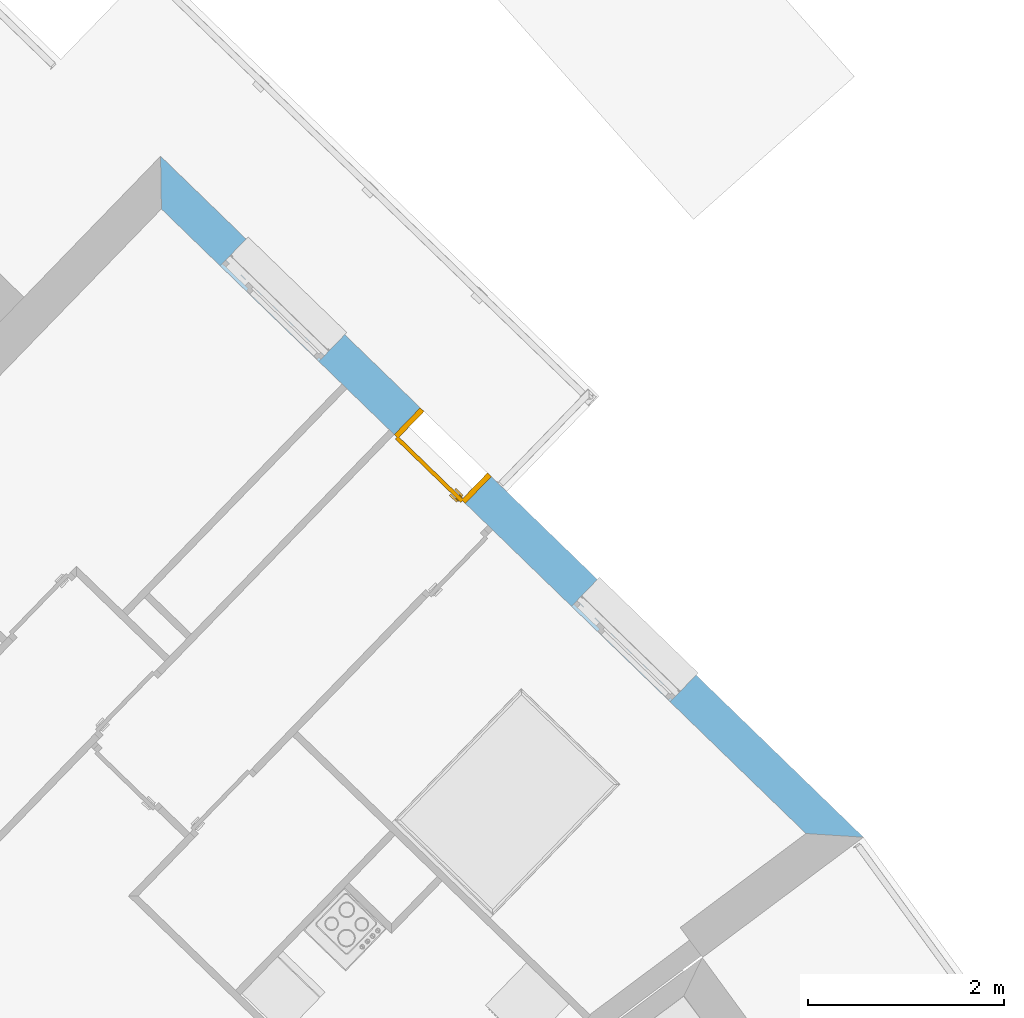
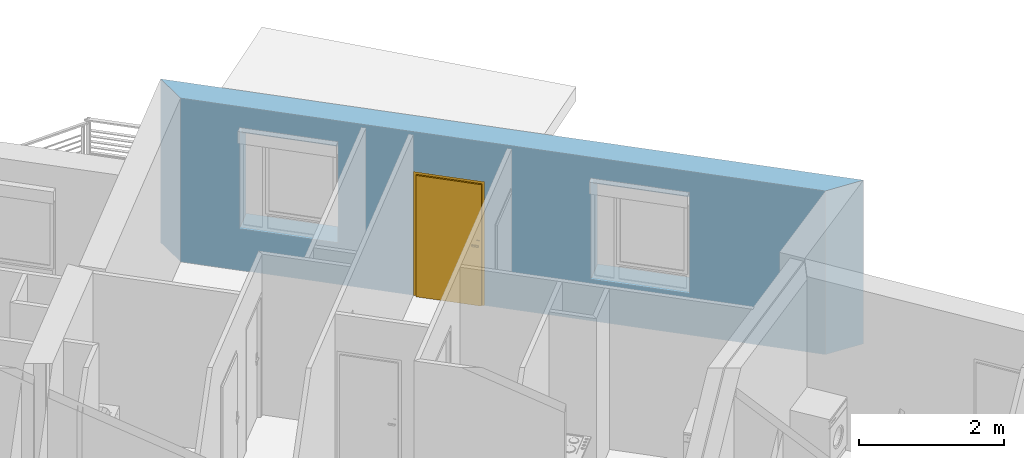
# One storey, part 21 of 121: 1 door, 3 openings, plus 1 element that does not belong to this part.
"""IFC2X3 building model written with IfcOpenShell, lengths in metres."""

from ifc_helpers import new_model, entity, si_unit, converted_unit, derived_unit, money_unit, direction, frame, origin_with_axes, origin_2d_with_axis, place, context, subcontext, project, spatial, polyline, rectangle, outline, extrude, faceted_brep, source, transform, mapped, material, layer, layer_set, layer_usage, type_object, element, fill, save


model = new_model("IFC2X3")

# Units and contexts
model_context = context("Model", 3, precision=1e-05, world=origin_with_axes(), true_north=direction((0.0, 1.0)))
body_context = subcontext(model_context, "Body", "Model", "MODEL_VIEW")
ifc_project = project(units=[si_unit("LENGTHUNIT", "METRE"), si_unit("AREAUNIT", "SQUARE_METRE"), si_unit("VOLUMEUNIT", "CUBIC_METRE"), converted_unit("PLANEANGLEUNIT", "DEGREE", entity("IfcPlaneAngleMeasure", 0.0174532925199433), si_unit("PLANEANGLEUNIT", "RADIAN"), dimensions=[0, 0, 0, 0, 0, 0, 0]), money_unit("CHF"), converted_unit("TIMEUNIT", "Year", entity("IfcTimeMeasure", 31557600.0), si_unit("TIMEUNIT", "SECOND"), dimensions=[0, 0, 1, 0, 0, 0, 0]), si_unit("MASSUNIT", "GRAM", prefix="KILO"), si_unit("THERMODYNAMICTEMPERATUREUNIT", "DEGREE_CELSIUS"), si_unit("LUMINOUSINTENSITYUNIT", "LUMEN"), si_unit("ENERGYUNIT", "JOULE", prefix="MEGA"), derived_unit("THERMALCONDUCTANCEUNIT", [(si_unit("POWERUNIT", "WATT"), 1), (si_unit("LENGTHUNIT", "METRE"), -1), (si_unit("THERMODYNAMICTEMPERATUREUNIT", "KELVIN"), -1)]), derived_unit("SPECIFICHEATCAPACITYUNIT", [(si_unit("ENERGYUNIT", "JOULE"), 1), (si_unit("MASSUNIT", "GRAM", prefix="KILO"), -1), (si_unit("THERMODYNAMICTEMPERATUREUNIT", "KELVIN"), -1)]), derived_unit("MASSDENSITYUNIT", [(si_unit("MASSUNIT", "GRAM", prefix="KILO"), 1), (si_unit("VOLUMEUNIT", "CUBIC_METRE"), -1)])], contexts=[model_context])

# Site, building, storey
site_placement = place(None, origin_with_axes())
site = spatial("IfcSite", under=ifc_project, at=site_placement, Name="Site", CompositionType="ELEMENT")
building_placement = place(site_placement, origin_with_axes())
building = spatial("IfcBuilding", under=site, at=building_placement, Name="Bâtiment", CompositionType="ELEMENT")
storey_placement = place(building_placement, frame((0.0, 0.0, 2.75), z_axis=(0.0, 0.0, 1.0), x_axis=(1.0, 0.0, 0.0)))
storey = spatial("IfcBuildingStorey", under=building, at=storey_placement, Name="Etage 1", CompositionType="ELEMENT", Elevation=2.75)

# Wall, openings, door
ifc_material_1 = material(Name="Parpaing 312445824")
ifc_layer_1 = layer(ifc_material_1, 0.22, ventilated="UNKNOWN")
ifc_material_2 = material(Name="Isolant styromousse 301821074")
ifc_layer_2 = layer(ifc_material_2, 0.16, ventilated="UNKNOWN")
ifc_layer_set = layer_set([ifc_layer_1, ifc_layer_2], Name="isol int 22+16 0836643197")
ifc_layer_usage = layer_usage(ifc_layer_set, "AXIS2", "NEGATIVE", 0.0)
wall_type = type_object("IfcWallType", Name="isol int 22+16 0836643197 380", PredefinedType="NOTDEFINED")
wall_placement = place(storey_placement, frame((9531.989867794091, -1061.560379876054, 57.7), z_axis=(0.0, 0.0, 1.0), x_axis=(0.7181763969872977, -0.6958610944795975, 0.0)))
wall = element("IfcWallStandardCase", 1, at=wall_placement, inside=storey, type_object=wall_type, material=ifc_layer_usage, Name="Mur-116", context=body_context, shape_type="SweptSolid", body=[
    extrude(outline(polyline([(0.3800000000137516, -0.3799999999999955), (9.524551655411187, -0.3800000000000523), (9.970619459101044, 0.0), (0.0, 0.0), (0.3800000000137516, -0.3799999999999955)])), origin_with_axes(), (0.0, 0.0, 1.0), 2.75),
])
opening_1_placement = place(wall_placement, frame((1.912836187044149, 0.0, 0.7000000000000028), z_axis=(0.0, 0.0, 1.0), x_axis=(1.0, 0.0, 0.0)))
element("IfcOpeningElement", 2, at=opening_1_placement, cuts=wall, Name="Fen-045", context=body_context, shape_type="Brep", body=[
    faceted_brep([(-0.7000000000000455, -0.2200000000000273, 1.5), (0.6999999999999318, -0.2200000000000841, 1.5), (0.6999999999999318, 4.983827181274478, 1.5), (-0.7000000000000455, 4.983827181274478, 1.5), (-0.7000000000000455, -0.2200000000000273, 1.700000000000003), (0.6999999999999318, -0.2200000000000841, 1.700000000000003), (0.6999999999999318, -0.3000000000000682, 1.5), (0.6999999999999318, -0.3000000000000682, 0.0), (0.6999999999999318, 4.983827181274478, 0.0), (-0.7000000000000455, 4.983827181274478, 0.0), (-0.7000000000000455, -0.3000000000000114, 1.5), (-0.7000000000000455, -0.3000000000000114, 0.0), (-0.7000000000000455, -0.4799999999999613, 1.5), (-0.7000000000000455, -0.4799999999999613, 1.700000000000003), (0.6999999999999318, -0.4800000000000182, 1.700000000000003), (0.6999999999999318, -0.4800000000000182, 1.5), (0.6999999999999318, -5.36382718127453, 1.5), (0.6999999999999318, -5.36382718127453, 0.0), (-0.7000000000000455, -5.363827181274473, 0.0), (-0.7000000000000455, -5.363827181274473, 1.5)], [[[0, 1, 2, 3]], [[1, 0, 4, 5]], [[1, 6, 7, 8, 2]], [[2, 8, 9, 3]], [[10, 0, 3, 9, 11]], [[0, 10, 12, 13, 4]], [[4, 13, 14, 5]], [[6, 1, 5, 14, 15]], [[6, 15, 16, 17, 7]], [[7, 11, 9, 8]], [[12, 10, 11, 18, 19]], [[12, 15, 14, 13]], [[15, 12, 19, 16]], [[19, 18, 17, 16]], [[11, 7, 17, 18]]]),
])
opening_2_placement = place(wall_placement, frame((4.187148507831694, 0.0, 0.0), z_axis=(0.0, 0.0, 1.0), x_axis=(1.0, 0.0, 0.0)))
opening_2 = element("IfcOpeningElement", 3, at=opening_2_placement, cuts=wall, Name="Por-297", context=body_context, shape_type="SweptSolid", body=[
    extrude(rectangle(XDim=1.01000001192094, YDim=2.079999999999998, at=origin_2d_with_axis()), frame((-5.960487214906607e-09, 0.3799999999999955, 1.039999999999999), z_axis=(0.0, -1.0, 0.0), x_axis=(-1.0, 0.0, 0.0)), (0.0, 0.0, 1.0), 0.76),
])
opening_3_placement = place(wall_placement, frame((6.896864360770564, 0.0, 0.7000000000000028), z_axis=(0.0, 0.0, 1.0), x_axis=(1.0, 0.0, 0.0)))
element("IfcOpeningElement", 4, at=opening_3_placement, cuts=wall, Name="Fen-045", context=body_context, shape_type="Brep", body=[
    faceted_brep([(-0.7000000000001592, -0.2200000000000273, 1.5), (0.6999999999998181, -0.2200000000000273, 1.5), (0.6999999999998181, 4.983827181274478, 1.5), (-0.7000000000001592, 4.983827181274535, 1.5), (-0.7000000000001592, -0.2200000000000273, 1.700000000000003), (0.6999999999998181, -0.2200000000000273, 1.700000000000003), (0.6999999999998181, -0.3000000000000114, 1.5), (0.6999999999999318, -0.3000000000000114, 0.0), (0.6999999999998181, 4.983827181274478, 0.0), (-0.7000000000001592, 4.983827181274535, 0.0), (-0.7000000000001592, -0.2999999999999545, 1.5), (-0.7000000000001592, -0.3000000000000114, 0.0), (-0.7000000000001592, -0.4799999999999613, 1.5), (-0.7000000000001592, -0.4799999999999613, 1.700000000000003), (0.6999999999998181, -0.4799999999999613, 1.700000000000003), (0.6999999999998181, -0.4799999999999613, 1.5), (0.6999999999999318, -5.36382718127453, 1.5), (0.6999999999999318, -5.36382718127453, 0.0), (-0.7000000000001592, -5.363827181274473, 0.0), (-0.7000000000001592, -5.363827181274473, 1.5)], [[[0, 1, 2, 3]], [[1, 0, 4, 5]], [[1, 6, 7, 8, 2]], [[2, 8, 9, 3]], [[10, 0, 3, 9, 11]], [[0, 10, 12, 13, 4]], [[4, 13, 14, 5]], [[6, 1, 5, 14, 15]], [[6, 15, 16, 17, 7]], [[7, 11, 9, 8]], [[12, 10, 11, 18, 19]], [[12, 15, 14, 13]], [[15, 12, 19, 16]], [[19, 18, 17, 16]], [[11, 7, 17, 18]]]),
])
door_style = type_object("IfcDoorStyle", Name="Porte_1v", ConstructionType="NOTDEFINED", OperationType="NOTDEFINED", ParameterTakesPrecedence=False, Sizeable=False)
shared_shape = source(origin_with_axes(), body_context, "Body", "Brep", [
    faceted_brep([(0.5049999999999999, 0.0, 0.0), (0.465, 0.0, 0.0), (0.4649999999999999, 0.0, 2.04), (-0.4649999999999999, 0.0, 2.04), (-0.465, 0.0, 0.0), (-0.5049999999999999, 0.0, 0.0), (-0.5049999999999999, 0.0, 2.08), (0.5049999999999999, 0.0, 2.08), (0.5049999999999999, -0.38, 0.0), (0.45, -0.3799999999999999, 0.0), (0.45, -0.01500000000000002, 0.0), (0.465, -0.01500000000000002, 0.0), (0.4649999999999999, -0.01500000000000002, 2.04), (-0.4649999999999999, -0.01499999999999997, 2.04), (-0.465, -0.01499999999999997, 0.0), (-0.45, -0.01499999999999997, 0.0), (-0.45, -0.3799999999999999, 0.0), (-0.5049999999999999, -0.3799999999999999, 0.0), (-0.5049999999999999, -0.3799999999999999, 2.08), (0.5049999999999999, -0.38, 2.08), (-0.45, -0.3799999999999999, 2.025), (0.45, -0.3799999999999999, 2.025), (0.45, -0.01500000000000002, 2.025), (-0.45, -0.01499999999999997, 2.025)], [[[0, 1, 2, 3, 4, 5, 6, 7]], [[0, 8, 9, 10, 11, 1]], [[1, 11, 12, 2]], [[2, 12, 13, 3]], [[3, 13, 14, 4]], [[5, 4, 14, 15, 16, 17]], [[18, 6, 5, 17]], [[19, 7, 6, 18]], [[8, 0, 7, 19]], [[9, 8, 19, 18, 17, 16, 20, 21]], [[10, 9, 21, 22]], [[11, 10, 22, 23, 15, 14, 13, 12]], [[23, 20, 16, 15]], [[22, 21, 20, 23]]]),
    faceted_brep([(-0.4, -0.01499999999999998, 0.9), (-0.4399999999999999, -0.01499999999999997, 0.9), (-0.4399999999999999, -0.01499999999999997, 1.1), (-0.4, -0.01499999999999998, 1.1), (-0.4, -0.02499999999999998, 0.9), (-0.4399999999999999, -0.02499999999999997, 0.9), (-0.4399999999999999, -0.02499999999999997, 1.1), (-0.4, -0.02499999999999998, 1.1)], [[[0, 1, 2, 3]], [[1, 0, 4, 5]], [[2, 1, 5, 6]], [[3, 2, 6, 7]], [[0, 3, 7, 4]], [[5, 4, 7, 6]]]),
    faceted_brep([(-0.3299999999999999, -0.02499999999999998, 1.0), (-0.4299999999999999, -0.02499999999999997, 1.0), (-0.4299999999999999, -0.02499999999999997, 1.02), (-0.3299999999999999, -0.02499999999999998, 1.02), (-0.3299999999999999, -0.04499999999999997, 1.0), (-0.4299999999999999, -0.04499999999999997, 1.0), (-0.4299999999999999, -0.04499999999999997, 1.02), (-0.3299999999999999, -0.04499999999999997, 1.02)], [[[0, 1, 2, 3]], [[1, 0, 4, 5]], [[2, 1, 5, 6]], [[3, 2, 6, 7]], [[0, 3, 7, 4]], [[5, 4, 7, 6]]]),
    faceted_brep([(-0.4, 0.03500000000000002, 0.9), (-0.4399999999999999, 0.03500000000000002, 0.9), (-0.4399999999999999, 0.03500000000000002, 1.1), (-0.4, 0.03500000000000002, 1.1), (-0.4, 0.02500000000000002, 0.9), (-0.4399999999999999, 0.02500000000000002, 0.9), (-0.4399999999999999, 0.02500000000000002, 1.1), (-0.4, 0.02500000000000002, 1.1)], [[[0, 1, 2, 3]], [[1, 0, 4, 5]], [[2, 1, 5, 6]], [[3, 2, 6, 7]], [[0, 3, 7, 4]], [[5, 4, 7, 6]]]),
    faceted_brep([(-0.3299999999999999, 0.05500000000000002, 1.0), (-0.4299999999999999, 0.05500000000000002, 1.0), (-0.4299999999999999, 0.05500000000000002, 1.02), (-0.3299999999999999, 0.05500000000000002, 1.02), (-0.3299999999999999, 0.03500000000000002, 1.0), (-0.4299999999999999, 0.03500000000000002, 1.0), (-0.4299999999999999, 0.03500000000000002, 1.02), (-0.3299999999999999, 0.03500000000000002, 1.02)], [[[0, 1, 2, 3]], [[1, 0, 4, 5]], [[2, 1, 5, 6]], [[3, 2, 6, 7]], [[0, 3, 7, 4]], [[5, 4, 7, 6]]]),
    faceted_brep([(-0.465, 0.02500000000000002, 0.0), (0.465, 0.02499999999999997, 0.0), (0.465, -0.01500000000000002, 0.0), (-0.465, -0.01499999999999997, 0.0), (-0.465, 0.02500000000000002, 2.04), (0.465, 0.02499999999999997, 2.04), (0.465, -0.01500000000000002, 2.04), (-0.465, -0.01499999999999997, 2.04)], [[[0, 1, 2, 3]], [[0, 4, 5, 1]], [[1, 5, 6, 2]], [[3, 2, 6, 7]], [[4, 0, 3, 7]], [[5, 4, 7, 6]]]),
])
door_placement = place(opening_2_placement, frame((0.4649999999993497, 0.0, 0.0), z_axis=(0.0, 0.0, 1.0), x_axis=(-1.0, 0.0, 0.0)))
door = element("IfcDoor", 5, at=door_placement, inside=storey, type_object=door_style, Name="Por-297", OverallHeight=2.04, OverallWidth=0.93, context=body_context, shape_type="MappedRepresentation", body=[
    mapped(shared_shape, transform((0.4649999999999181, 0.3800000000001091, 0.0))),
])
fill(opening_2, door)

save(model, "model.ifc")
